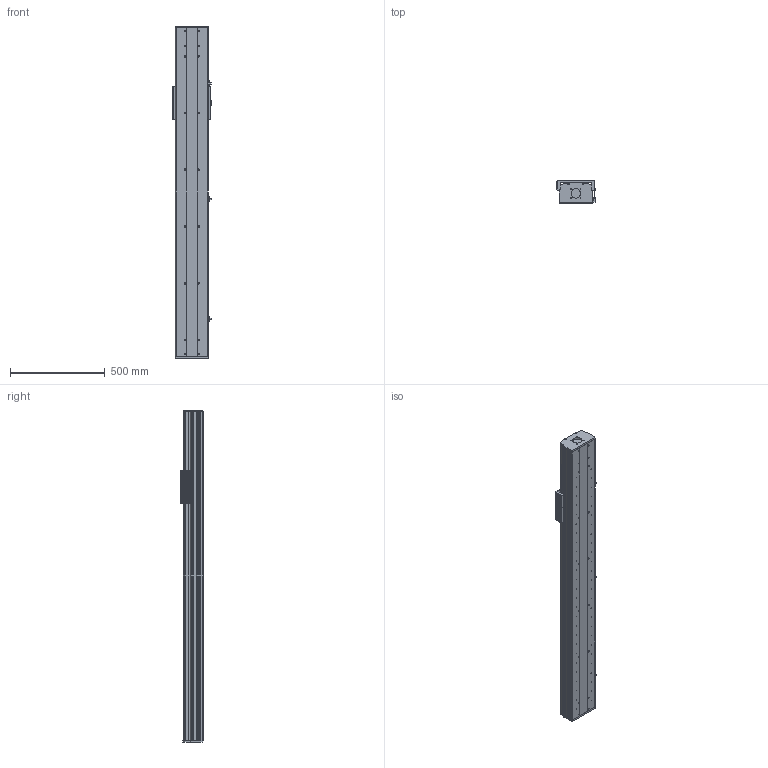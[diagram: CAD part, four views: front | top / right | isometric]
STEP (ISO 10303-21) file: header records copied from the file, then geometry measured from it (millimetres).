
FILE_DESCRIPTION (( 'STEP AP203' ), '1' );
FILE_NAME ('CF175B-C-1400-FW.STEP', '2020-07-15T01:58:53', ( 'Micorosoft' ), ( 'Micorosoft' ), 'SwSTEP 2.0', 'SolidWorks 2016', '' );
FILE_SCHEMA (( 'CONFIG_CONTROL_DESIGN' ));
Length unit declared in the file: millimetre
Products named in the file (12): EGR20絳寢-1400; CF175-2賑雄啣; 75-86-95癹弇羲壽覜茼え; CF-EGH20CA賑輸; 175-2耜啣; 175B珨极嘐隅釱; 175-2盓傅釱; 嫖萇羲壽; CF175-2蹟譫釱; CF175B-C-1400-FW; 175B裔啣-1400; 175B臏倰第-1400
Assembly tree (17 placements, depth 2):
  CF175B-C-1400-FW
    175-2耜啣
    175-2盓傅釱
    CF175-2蹟譫釱
    175B裔啣-1400
    175B臏倰第-1400
    EGR20絳寢-1400  x2
    CF175-2賑雄啣
    75-86-95癹弇羲壽覜茼え
    CF-EGH20CA賑輸  x4
    175B珨极嘐隅釱
    嫖萇羲壽  x3
Bounding box: 201.1 x 116.8 x 1755 mm (x, y, z)
Volume: 12157732 mm3; surface area: 3328398 mm2
Topology: 23 solids, 23 shells, 1595 faces, 4098 edges, 2724 vertices
Faces by surface type: cylinder 820, plane 769, cone 4, bspline 2
Entity records: 37948 total; most frequent: DIRECTION 6643, CARTESIAN_POINT 6384, ORIENTED_EDGE 5992, EDGE_CURVE 2996, AXIS2_PLACEMENT_3D 2491, VERTEX_POINT 1992, LINE 1661, VECTOR 1661
